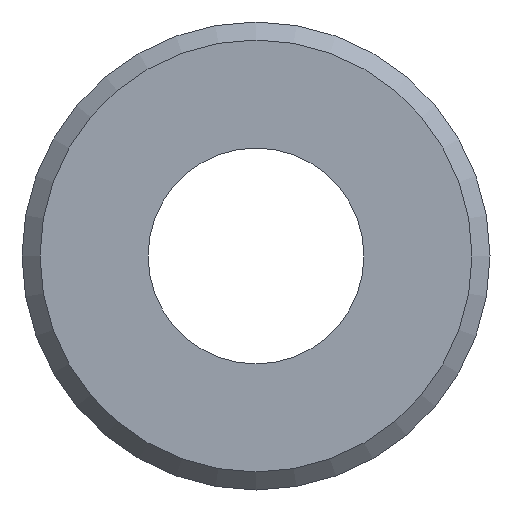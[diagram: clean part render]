
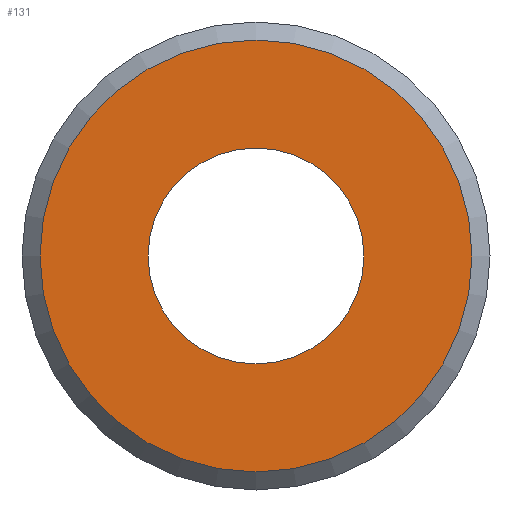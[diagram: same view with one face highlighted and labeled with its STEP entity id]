
A CAD part, left-side view. The second image highlights one B-rep face of the part: STEP entity #131.
In plain terms, the highlighted planar face has unit normal (-1, 0, 0).
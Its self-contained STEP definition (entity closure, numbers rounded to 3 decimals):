
#97=CARTESIAN_POINT('',(0.,3.,0.0));
#98=VERTEX_POINT('',#97);
#99=CARTESIAN_POINT('',(0.,0.,0.0));
#100=DIRECTION('',(1.0,0.0,0.0));
#101=DIRECTION('',(0.0,1.0,0.0));
#102=AXIS2_PLACEMENT_3D('',#99,#100,#101);
#103=CIRCLE('',#102,3.);
#104=EDGE_CURVE('',#98,#98,#103,.T.);
#112=CARTESIAN_POINT('',(0.,4.5,0.0));
#113=DIRECTION('',(-1.0,0.0,0.0));
#114=DIRECTION('',(0.0,0.0,1.0));
#115=AXIS2_PLACEMENT_3D('',#112,#113,#114);
#116=PLANE('',#115);
#117=CARTESIAN_POINT('',(0.0,6.,0.0));
#118=VERTEX_POINT('',#117);
#119=CARTESIAN_POINT('',(0.,0.,0.0));
#120=DIRECTION('',(1.0,0.0,0.0));
#121=DIRECTION('',(0.0,1.0,0.0));
#122=AXIS2_PLACEMENT_3D('',#119,#120,#121);
#123=CIRCLE('',#122,6.);
#124=EDGE_CURVE('',#118,#118,#123,.T.);
#125=ORIENTED_EDGE('',*,*,#124,.F.);
#126=EDGE_LOOP('',(#125));
#127=FACE_OUTER_BOUND('',#126,.T.);
#128=ORIENTED_EDGE('',*,*,#104,.T.);
#129=EDGE_LOOP('',(#128));
#130=FACE_BOUND('',#129,.T.);
#131=ADVANCED_FACE('',(#127,#130),#116,.T.);
